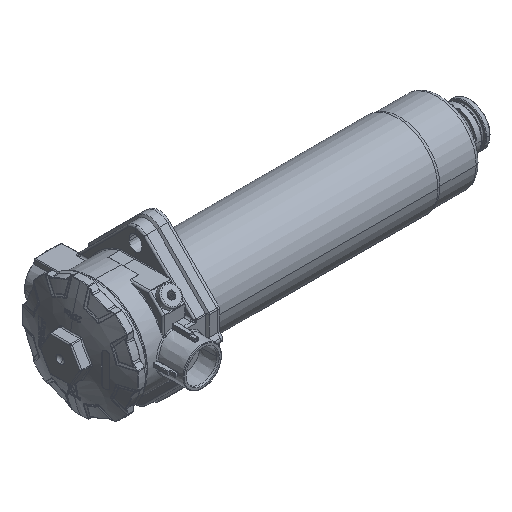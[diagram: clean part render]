
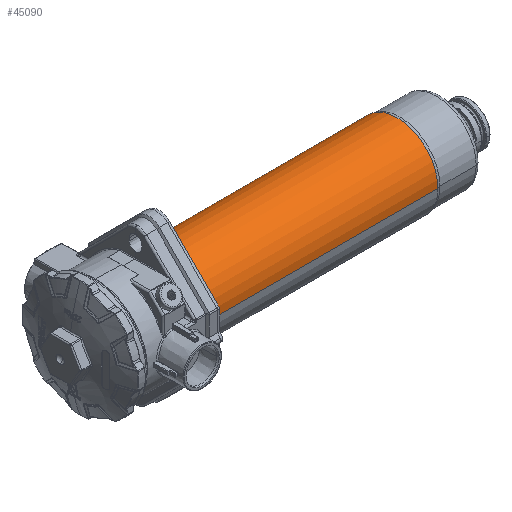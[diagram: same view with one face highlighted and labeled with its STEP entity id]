
A CAD part, isometric view. The second image highlights one B-rep face of the part: STEP entity #45090.
In plain terms, the highlighted cylindrical face has radius 36.5 mm (diameter 73 mm), a partial arc.
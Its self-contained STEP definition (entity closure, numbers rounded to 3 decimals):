
#5297=CARTESIAN_POINT('',(69.,0.,0.));
#5298=DIRECTION('',(1.,0.,0.));
#5299=DIRECTION('',(0.,1.,0.));
#5300=AXIS2_PLACEMENT_3D('',#5297,#5298,#5299);
#5305=DIRECTION('',(1.,0.,0.));
#5306=VECTOR('',#5305,207.);
#5307=CARTESIAN_POINT('',(69.,-36.5,-0.012));
#5308=LINE('',#5307,#5306);
#5312=DIRECTION('',(1.,0.,0.));
#5313=VECTOR('',#5312,207.);
#5314=CARTESIAN_POINT('',(69.,36.5,0.012));
#5315=LINE('',#5314,#5313);
#5327=CARTESIAN_POINT('',(276.,0.,0.));
#5328=DIRECTION('',(-1.,0.,0.));
#5329=DIRECTION('',(0.,-1.,0.));
#5330=AXIS2_PLACEMENT_3D('',#5327,#5328,#5329);
#35910=CARTESIAN_POINT('',(69.,-36.5,-0.012));
#35911=CARTESIAN_POINT('',(69.,36.5,0.012));
#35912=VERTEX_POINT('',#35910);
#35913=VERTEX_POINT('',#35911);
#35914=CARTESIAN_POINT('',(276.,-36.5,
-0.012));
#35915=VERTEX_POINT('',#35914);
#35916=CARTESIAN_POINT('',(276.,36.5,
0.012));
#35917=VERTEX_POINT('',#35916);
#45078=CARTESIAN_POINT('',(162.,0.,0.));
#45079=DIRECTION('',(1.,0.,0.));
#45080=DIRECTION('',(0.,1.,0.));
#45081=AXIS2_PLACEMENT_3D('',#45078,#45079,#45080);
#45082=CYLINDRICAL_SURFACE('',#45081,36.5);
#45083=ORIENTED_EDGE('',*,*,#45044,.F.);
#45084=ORIENTED_EDGE('',*,*,#45066,.T.);
#45086=ORIENTED_EDGE('',*,*,#45085,.F.);
#45087=ORIENTED_EDGE('',*,*,#45062,.F.);
#45088=EDGE_LOOP('',(#45083,#45084,#45086,#45087));
#45089=FACE_OUTER_BOUND('',#45088,.F.);
#5301=CIRCLE('',#5300,36.5);
#5331=CIRCLE('',#5330,36.5);
#45044=EDGE_CURVE('',#35913,#35912,#5301,.T.);
#45062=EDGE_CURVE('',#35912,#35915,#5308,.T.);
#45066=EDGE_CURVE('',#35913,#35917,#5315,.T.);
#45085=EDGE_CURVE('',#35915,#35917,#5331,.T.);
#45090=ADVANCED_FACE('',(#45089),#45082,.T.);
